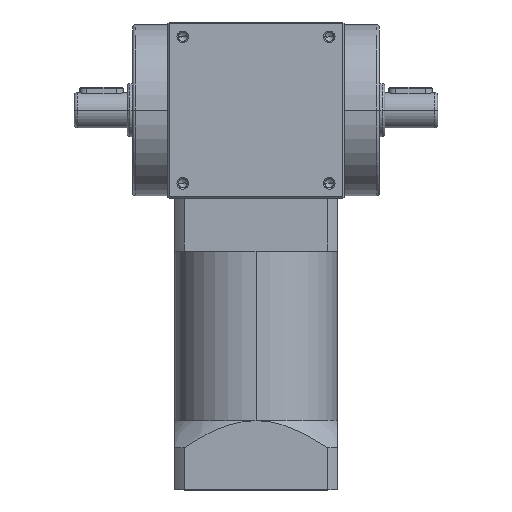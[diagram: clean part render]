
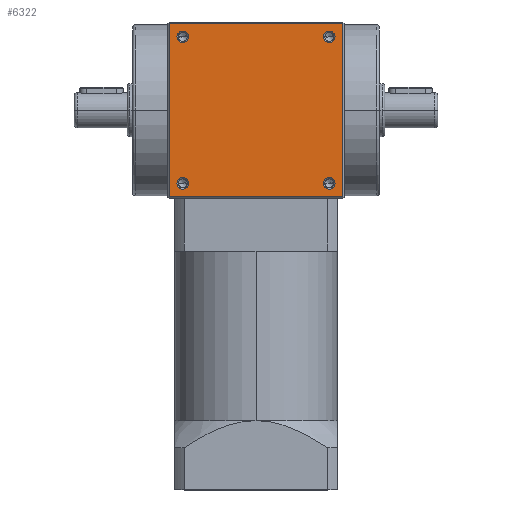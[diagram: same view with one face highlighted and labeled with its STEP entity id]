
A CAD part, top view. The second image highlights one B-rep face of the part: STEP entity #6322.
In plain terms, the highlighted planar face has unit normal (0, 0, 1).
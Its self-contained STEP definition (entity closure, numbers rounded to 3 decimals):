
#41 = DIRECTION ( 'NONE',  ( 0., 0., -1. ) ) ;
#100 = EDGE_CURVE ( 'NONE', #8008, #124, #5097, .T. ) ;
#124 = VERTEX_POINT ( 'NONE', #2456 ) ;
#171 = DIRECTION ( 'NONE',  ( 0., 0., -1. ) ) ;
#233 = DIRECTION ( 'NONE',  ( -1., 0., 0. ) ) ;
#253 = CARTESIAN_POINT ( 'NONE',  ( -27., 27., 32.5 ) ) ;
#377 = DIRECTION ( 'NONE',  ( 0., 0., -1. ) ) ;
#444 = VECTOR ( 'NONE', #8708, 1000. ) ;
#491 = VERTEX_POINT ( 'NONE', #6137 ) ;
#509 = EDGE_CURVE ( 'NONE', #491, #2485, #3522, .T. ) ;
#559 = ORIENTED_EDGE ( 'NONE', *, *, #7011, .T. ) ;
#725 = EDGE_CURVE ( 'NONE', #8294, #4098, #964, .T. ) ;
#737 = CIRCLE ( 'NONE', #8244, 2.15 ) ;
#753 = EDGE_LOOP ( 'NONE', ( #7883, #7878 ) ) ;
#766 = CARTESIAN_POINT ( 'NONE',  ( -29.15, -27., 32.5 ) ) ;
#809 = CARTESIAN_POINT ( 'NONE',  ( -32., -32., 32.5 ) ) ;
#960 = DIRECTION ( 'NONE',  ( 0., 0., -1. ) ) ;
#964 = CIRCLE ( 'NONE', #6536, 2.15 ) ;
#1094 = CARTESIAN_POINT ( 'NONE',  ( -32., 0., 32.5 ) ) ;
#1130 = VERTEX_POINT ( 'NONE', #2592 ) ;
#1223 = CARTESIAN_POINT ( 'NONE',  ( -29.15, 27., 32.5 ) ) ;
#1374 = DIRECTION ( 'NONE',  ( 0., 0., -1. ) ) ;
#1429 = AXIS2_PLACEMENT_3D ( 'NONE', #2133, #1374, #5968 ) ;
#1454 = CARTESIAN_POINT ( 'NONE',  ( 0., 32., 32.5 ) ) ;
#1488 = VECTOR ( 'NONE', #8324, 1000. ) ;
#2133 = CARTESIAN_POINT ( 'NONE',  ( 27., 27., 32.5 ) ) ;
#2190 = DIRECTION ( 'NONE',  ( -1., 0., 0. ) ) ;
#2216 = FACE_BOUND ( 'NONE', #753, .T. ) ;
#2246 = EDGE_LOOP ( 'NONE', ( #9097, #5884 ) ) ;
#2271 = CIRCLE ( 'NONE', #8888, 2.15 ) ;
#2290 = CARTESIAN_POINT ( 'NONE',  ( -27., -27., 32.5 ) ) ;
#2351 = EDGE_CURVE ( 'NONE', #3694, #2724, #2271, .T. ) ;
#2456 = CARTESIAN_POINT ( 'NONE',  ( -32., 32., 32.5 ) ) ;
#2485 = VERTEX_POINT ( 'NONE', #7240 ) ;
#2592 = CARTESIAN_POINT ( 'NONE',  ( 24.85, 27., 32.5 ) ) ;
#2616 = CARTESIAN_POINT ( 'NONE',  ( -27., -27., 32.5 ) ) ;
#2672 = CARTESIAN_POINT ( 'NONE',  ( 32., -32., 32.5 ) ) ;
#2724 = VERTEX_POINT ( 'NONE', #766 ) ;
#2808 = AXIS2_PLACEMENT_3D ( 'NONE', #7050, #171, #5557 ) ;
#2848 = EDGE_CURVE ( 'NONE', #2485, #491, #7739, .T. ) ;
#2894 = AXIS2_PLACEMENT_3D ( 'NONE', #253, #4132, #9456 ) ;
#2948 = VERTEX_POINT ( 'NONE', #809 ) ;
#3168 = CARTESIAN_POINT ( 'NONE',  ( 27., -27., 32.5 ) ) ;
#3239 = ORIENTED_EDGE ( 'NONE', *, *, #4316, .T. ) ;
#3245 = PLANE ( 'NONE',  #2808 ) ;
#3283 = CARTESIAN_POINT ( 'NONE',  ( 32., 32., 32.5 ) ) ;
#3354 = DIRECTION ( 'NONE',  ( -1., 0., 0. ) ) ;
#3480 = EDGE_LOOP ( 'NONE', ( #6021, #9661 ) ) ;
#3522 = CIRCLE ( 'NONE', #6726, 2.15 ) ;
#3647 = VERTEX_POINT ( 'NONE', #2672 ) ;
#3694 = VERTEX_POINT ( 'NONE', #8801 ) ;
#3786 = CIRCLE ( 'NONE', #1429, 2.15 ) ;
#3878 = ORIENTED_EDGE ( 'NONE', *, *, #8598, .T. ) ;
#4022 = CARTESIAN_POINT ( 'NONE',  ( 27., 27., 32.5 ) ) ;
#4098 = VERTEX_POINT ( 'NONE', #6907 ) ;
#4132 = DIRECTION ( 'NONE',  ( 0., 0., -1. ) ) ;
#4276 = CARTESIAN_POINT ( 'NONE',  ( 29.15, 27., 32.5 ) ) ;
#4316 = EDGE_CURVE ( 'NONE', #2948, #3647, #9199, .T. ) ;
#4340 = LINE ( 'NONE', #5329, #6268 ) ;
#4348 = LINE ( 'NONE', #1094, #7456 ) ;
#4475 = FACE_BOUND ( 'NONE', #3480, .T. ) ;
#4690 = EDGE_CURVE ( 'NONE', #2724, #3694, #6808, .T. ) ;
#4780 = DIRECTION ( 'NONE',  ( -1., 0., 0. ) ) ;
#4847 = CARTESIAN_POINT ( 'NONE',  ( 0., -32., 32.5 ) ) ;
#5079 = VERTEX_POINT ( 'NONE', #4276 ) ;
#5097 = LINE ( 'NONE', #1454, #1488 ) ;
#5133 = ORIENTED_EDGE ( 'NONE', *, *, #2351, .T. ) ;
#5299 = CARTESIAN_POINT ( 'NONE',  ( 27., -27., 32.5 ) ) ;
#5329 = CARTESIAN_POINT ( 'NONE',  ( 32., 0., 32.5 ) ) ;
#5387 = DIRECTION ( 'NONE',  ( -1., 0., 0. ) ) ;
#5520 = EDGE_CURVE ( 'NONE', #5079, #1130, #3786, .T. ) ;
#5557 = DIRECTION ( 'NONE',  ( -1., 0., 0. ) ) ;
#5614 = ORIENTED_EDGE ( 'NONE', *, *, #100, .T. ) ;
#5884 = ORIENTED_EDGE ( 'NONE', *, *, #509, .T. ) ;
#5968 = DIRECTION ( 'NONE',  ( -1., 0., 0. ) ) ;
#6021 = ORIENTED_EDGE ( 'NONE', *, *, #8613, .T. ) ;
#6137 = CARTESIAN_POINT ( 'NONE',  ( 24.85, -27., 32.5 ) ) ;
#6268 = VECTOR ( 'NONE', #9120, 1000. ) ;
#6316 = EDGE_CURVE ( 'NONE', #1130, #5079, #737, .T. ) ;
#6322 = ADVANCED_FACE ( 'NONE', ( #8647, #8892, #2216, #4475, #6645 ), #3245, .F. ) ;
#6531 = DIRECTION ( 'NONE',  ( 0., -1., 0. ) ) ;
#6536 = AXIS2_PLACEMENT_3D ( 'NONE', #8759, #377, #3354 ) ;
#6645 = FACE_OUTER_BOUND ( 'NONE', #7141, .T. ) ;
#6726 = AXIS2_PLACEMENT_3D ( 'NONE', #3168, #6952, #6974 ) ;
#6808 = CIRCLE ( 'NONE', #8988, 2.15 ) ;
#6907 = CARTESIAN_POINT ( 'NONE',  ( -24.85, 27., 32.5 ) ) ;
#6952 = DIRECTION ( 'NONE',  ( 0., 0., -1. ) ) ;
#6974 = DIRECTION ( 'NONE',  ( -1., 0., 0. ) ) ;
#7011 = EDGE_CURVE ( 'NONE', #3647, #8008, #4340, .T. ) ;
#7050 = CARTESIAN_POINT ( 'NONE',  ( 0., 0., 32.5 ) ) ;
#7141 = EDGE_LOOP ( 'NONE', ( #3878, #3239, #559, #5614 ) ) ;
#7240 = CARTESIAN_POINT ( 'NONE',  ( 29.15, -27., 32.5 ) ) ;
#7456 = VECTOR ( 'NONE', #6531, 1000. ) ;
#7739 = CIRCLE ( 'NONE', #9513, 2.15 ) ;
#7835 = EDGE_LOOP ( 'NONE', ( #5133, #8160 ) ) ;
#7878 = ORIENTED_EDGE ( 'NONE', *, *, #6316, .T. ) ;
#7883 = ORIENTED_EDGE ( 'NONE', *, *, #5520, .T. ) ;
#8008 = VERTEX_POINT ( 'NONE', #3283 ) ;
#8160 = ORIENTED_EDGE ( 'NONE', *, *, #4690, .T. ) ;
#8174 = CIRCLE ( 'NONE', #2894, 2.15 ) ;
#8244 = AXIS2_PLACEMENT_3D ( 'NONE', #4022, #9340, #4780 ) ;
#8294 = VERTEX_POINT ( 'NONE', #1223 ) ;
#8324 = DIRECTION ( 'NONE',  ( -1., 0., 0. ) ) ;
#8598 = EDGE_CURVE ( 'NONE', #124, #2948, #4348, .T. ) ;
#8613 = EDGE_CURVE ( 'NONE', #4098, #8294, #8174, .T. ) ;
#8647 = FACE_BOUND ( 'NONE', #2246, .T. ) ;
#8708 = DIRECTION ( 'NONE',  ( 1., 0., 0. ) ) ;
#8759 = CARTESIAN_POINT ( 'NONE',  ( -27., 27., 32.5 ) ) ;
#8801 = CARTESIAN_POINT ( 'NONE',  ( -24.85, -27., 32.5 ) ) ;
#8888 = AXIS2_PLACEMENT_3D ( 'NONE', #2616, #960, #233 ) ;
#8892 = FACE_BOUND ( 'NONE', #7835, .T. ) ;
#8988 = AXIS2_PLACEMENT_3D ( 'NONE', #2290, #41, #5387 ) ;
#9000 = DIRECTION ( 'NONE',  ( 0., 0., -1. ) ) ;
#9097 = ORIENTED_EDGE ( 'NONE', *, *, #2848, .T. ) ;
#9120 = DIRECTION ( 'NONE',  ( 0., 1., 0. ) ) ;
#9199 = LINE ( 'NONE', #4847, #444 ) ;
#9340 = DIRECTION ( 'NONE',  ( 0., 0., -1. ) ) ;
#9456 = DIRECTION ( 'NONE',  ( -1., 0., 0. ) ) ;
#9513 = AXIS2_PLACEMENT_3D ( 'NONE', #5299, #9000, #2190 ) ;
#9661 = ORIENTED_EDGE ( 'NONE', *, *, #725, .T. ) ;
